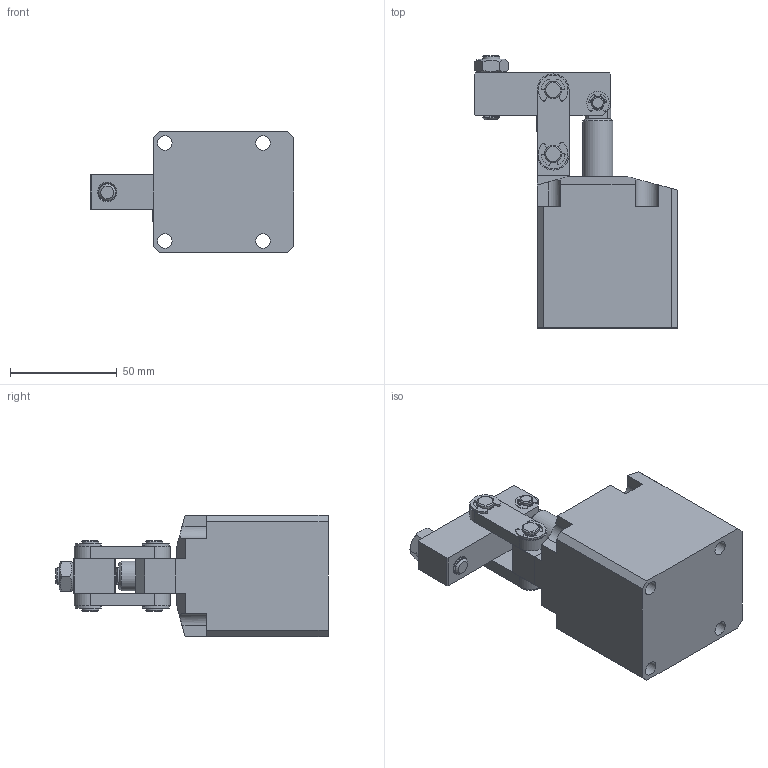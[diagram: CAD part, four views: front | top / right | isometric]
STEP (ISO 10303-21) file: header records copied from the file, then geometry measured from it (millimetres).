
FILE_DESCRIPTION(/* description */ ('STEP AP214'),/* implementation_level */ '2;1');
FILE_NAME(/* name */ 'D:\Vault_2016\Projekty\Clamptek\Hydraulic\CBLU\CBLU-35\STEP\CBLU-35.stp',/* time_stamp */ '2021-05-06T12:24:22+02:00',/* author */ ('user'),/* organization */ (''),/* preprocessor_version */ 'ST-DEVELOPER v18.1',/* originating_system */ 'Autodesk Inventor 2021',/* authorisation */ '');
FILE_SCHEMA (('AUTOMOTIVE_DESIGN { 1 0 10303 214 3 1 1 }'));
Length unit declared in the file: millimetre
Products named in the file (12): CBLU-35; 35±¾Ìå_1; »îÈû¸Ë_1_2_1; 35Ñ¹±Û_1; Ö§³Å; Á¬¸Ë_1; ÏúÖá2; ÏúÖá1; 8MM¿ª¿Úµ²È¦; 6MM¿ª¿Úµ²È¦; ÂÝË¿; M8ÂÝÄ¸
Assembly tree (17 placements, depth 2):
  CBLU-35
    35±¾Ìå_1
    »îÈû¸Ë_1_2_1
    35Ñ¹±Û_1
    Ö§³Å
    Á¬¸Ë_1  x2
    ÏúÖá2  x2
    ÏúÖá1
    8MM¿ª¿Úµ²È¦  x4
    6MM¿ª¿Úµ²È¦  x2
    ÂÝË¿
    M8ÂÝÄ¸
Bounding box: 95.5 x 127.5 x 57 mm (x, y, z)
Volume: 260323.1 mm3; surface area: 61485.5 mm2
Topology: 17 solids, 17 shells, 335 faces, 831 edges, 549 vertices
Faces by surface type: plane 158, cylinder 144, cone 25, bspline 8
Full cylindrical faces by diameter (mm): 2.5 x2, 3 x1, 5 x2, 6 x6, 6.8 x4, 7 x4, 8 x35, 10 x1, 11.8 x1, 14 x2, 35 x2
Entity records: 10528 total; most frequent: CARTESIAN_POINT 4317, DIRECTION 1214, ORIENTED_EDGE 1154, EDGE_CURVE 577, AXIS2_PLACEMENT_3D 449, VERTEX_POINT 380, LINE 316, VECTOR 316
